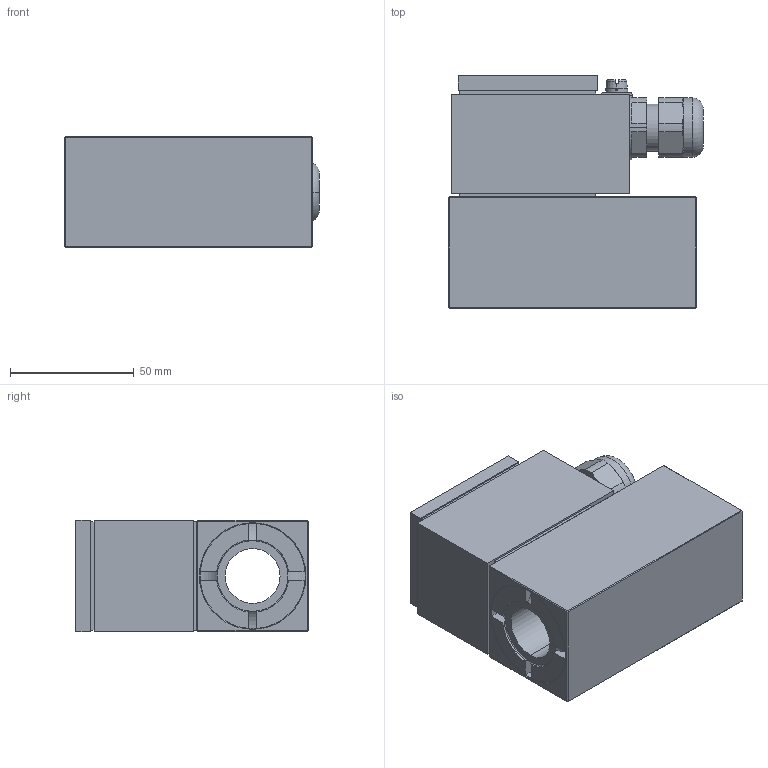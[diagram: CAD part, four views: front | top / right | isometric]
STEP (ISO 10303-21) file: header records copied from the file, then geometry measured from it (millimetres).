
FILE_DESCRIPTION (( 'STEP AP214' ), '1' );
FILE_NAME ('MKZ45.STEP', '2019-06-26T08:37:39', ( '' ), ( '' ), 'SwSTEP 2.0', 'SolidWorks 2018', '' );
FILE_SCHEMA (( 'AUTOMOTIVE_DESIGN' ));
Length unit declared in the file: millimetre
Products named in the file (1): MKZ45
Bounding box: 103 x 94 x 45 mm (x, y, z)
Volume: 315218.4 mm3; surface area: 61019.9 mm2
Topology: 8 solids, 10 shells, 374 faces, 893 edges, 562 vertices
Faces by surface type: plane 193, cylinder 125, cone 30, torus 26
Entity records: 15328 total; most frequent: CARTESIAN_POINT 2316, DIRECTION 1907, ORIENTED_EDGE 1778, EDGE_CURVE 889, AXIS2_PLACEMENT_3D 723, VERTEX_POINT 562, LINE 461, VECTOR 461
